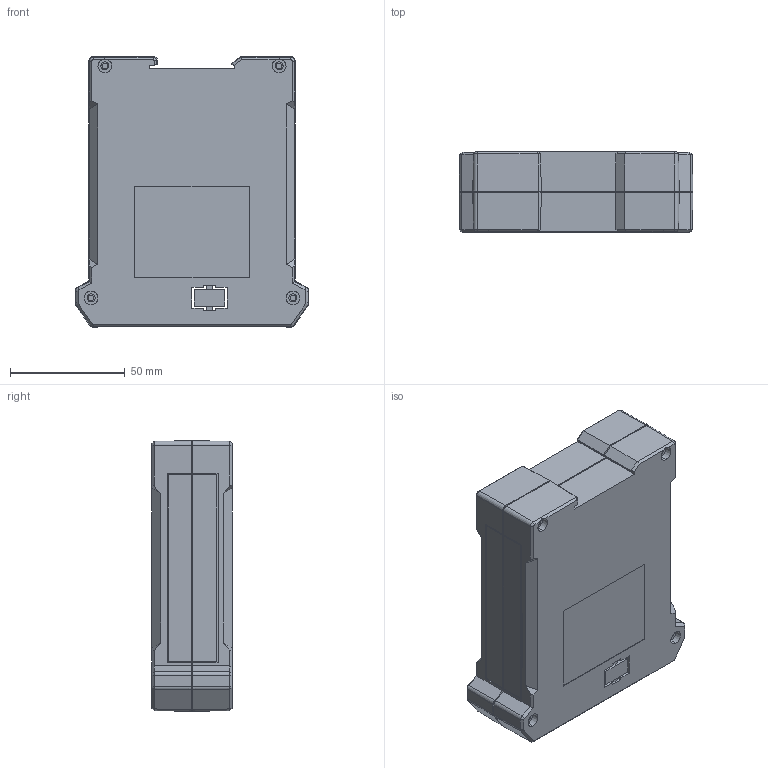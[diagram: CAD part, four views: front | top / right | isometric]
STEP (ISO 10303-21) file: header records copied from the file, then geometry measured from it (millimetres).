
FILE_DESCRIPTION (( 'STEP AP203' ), '1' );
FILE_NAME ('PT152.STEP', '2018-01-05T08:29:49', ( '' ), ( '' ), 'SwSTEP 2.0', 'SolidWorks 2015', '' );
FILE_SCHEMA (( 'CONFIG_CONTROL_DESIGN' ));
Length unit declared in the file: millimetre
Products named in the file (3): PT152
Assembly tree (2 placements, depth 2):
  PT152
    PT152
    PT152
Bounding box: 102 x 35 x 118 mm (x, y, z)
Volume: 69441.1 mm3; surface area: 78468.7 mm2
Topology: 2 solids, 2 shells, 913 faces, 2602 edges, 1720 vertices
Faces by surface type: plane 634, cylinder 200, cone 70, bspline 9
Entity records: 30476 total; most frequent: CARTESIAN_POINT 6452, ORIENTED_EDGE 5204, DIRECTION 4587, EDGE_CURVE 2602, LINE 1997, VECTOR 1997, VERTEX_POINT 1720, AXIS2_PLACEMENT_3D 1295
